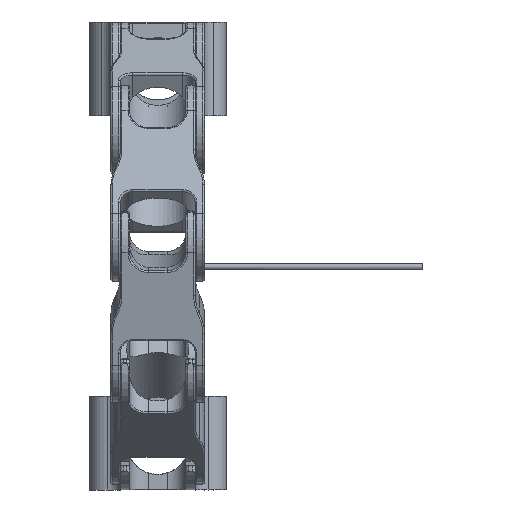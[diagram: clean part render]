
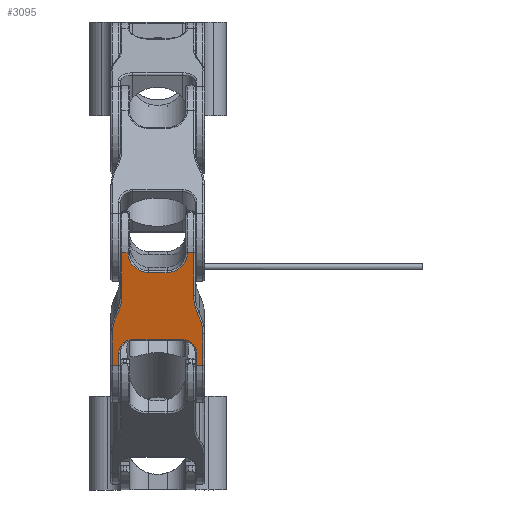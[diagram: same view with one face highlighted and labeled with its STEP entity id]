
A CAD part, front view. The second image highlights one B-rep face of the part: STEP entity #3095.
In plain terms, the highlighted planar face has unit normal (0, -0.978, -0.21) as drawn and (0, 1, 0) by its records, which use the part's own axes.
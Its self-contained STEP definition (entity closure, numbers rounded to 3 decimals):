
#2544=CARTESIAN_POINT('',(145.596,190.713,1.25));
#2545=VERTEX_POINT('',#2544);
#2588=CARTESIAN_POINT('',(143.596,190.713,1.25));
#2589=VERTEX_POINT('',#2588);
#2606=CARTESIAN_POINT('',(145.596,190.713,1.25));
#2607=DIRECTION('',(-1.0,0.0,0.0));
#2608=VECTOR('',#2607,2.);
#2609=LINE('',#2606,#2608);
#2610=EDGE_CURVE('',#2545,#2589,#2609,.T.);
#2652=CARTESIAN_POINT('',(141.346,190.713,3.5));
#2653=VERTEX_POINT('',#2652);
#2671=CARTESIAN_POINT('',(143.596,190.713,3.5));
#2672=DIRECTION('',(0.0,1.,0.0));
#2673=DIRECTION('',(-0.707,0.0,-0.707));
#2674=AXIS2_PLACEMENT_3D('',#2671,#2672,#2673);
#2675=CIRCLE('',#2674,2.25);
#2676=EDGE_CURVE('',#2589,#2653,#2675,.T.);
#2720=CARTESIAN_POINT('',(141.346,190.713,11.5));
#2721=VERTEX_POINT('',#2720);
#2738=CARTESIAN_POINT('',(141.346,190.713,3.5));
#2739=DIRECTION('',(0.0,0.0,1.0));
#2740=VECTOR('',#2739,8.);
#2741=LINE('',#2738,#2740);
#2742=EDGE_CURVE('',#2653,#2721,#2741,.T.);
#2784=CARTESIAN_POINT('',(143.596,190.713,13.75));
#2785=VERTEX_POINT('',#2784);
#2803=CARTESIAN_POINT('',(143.596,190.713,11.5));
#2804=DIRECTION('',(0.0,1.,0.0));
#2805=DIRECTION('',(-0.707,0.0,0.707));
#2806=AXIS2_PLACEMENT_3D('',#2803,#2804,#2805);
#2807=CIRCLE('',#2806,2.25);
#2808=EDGE_CURVE('',#2721,#2785,#2807,.T.);
#2852=CARTESIAN_POINT('',(145.596,190.713,13.75));
#2853=VERTEX_POINT('',#2852);
#2870=CARTESIAN_POINT('',(143.596,190.713,13.75));
#2871=DIRECTION('',(1.0,0.0,0.0));
#2872=VECTOR('',#2871,2.);
#2873=LINE('',#2870,#2872);
#2874=EDGE_CURVE('',#2785,#2853,#2873,.T.);
#2935=CARTESIAN_POINT('',(127.096,190.713,0.0));
#2936=DIRECTION('',(0.0,1.0,0.0));
#2937=DIRECTION('',(0.0,0.0,1.0));
#2938=AXIS2_PLACEMENT_3D('',#2935,#2936,#2937);
#2939=PLANE('',#2938);
#2940=ORIENTED_EDGE('',*,*,#2874,.F.);
#2941=ORIENTED_EDGE('',*,*,#2808,.F.);
#2942=ORIENTED_EDGE('',*,*,#2742,.F.);
#2943=ORIENTED_EDGE('',*,*,#2676,.F.);
#2944=ORIENTED_EDGE('',*,*,#2610,.F.);
#2945=CARTESIAN_POINT('',(145.596,190.713,0.25));
#2946=VERTEX_POINT('',#2945);
#2947=CARTESIAN_POINT('',(145.596,190.713,0.25));
#2948=DIRECTION('',(0.0,0.0,1.0));
#2949=VECTOR('',#2948,1.);
#2950=LINE('',#2947,#2949);
#2951=EDGE_CURVE('',#2946,#2545,#2950,.T.);
#2952=ORIENTED_EDGE('',*,*,#2951,.F.);
#2953=CARTESIAN_POINT('',(140.42,190.713,0.25));
#2954=VERTEX_POINT('',#2953);
#2955=CARTESIAN_POINT('',(140.42,190.713,0.25));
#2956=DIRECTION('',(1.0,0.0,0.0));
#2957=VECTOR('',#2956,5.176);
#2958=LINE('',#2955,#2957);
#2959=EDGE_CURVE('',#2954,#2946,#2958,.T.);
#2960=ORIENTED_EDGE('',*,*,#2959,.F.);
#2961=CARTESIAN_POINT('',(137.38,190.713,0.973));
#2962=VERTEX_POINT('',#2961);
#2963=CARTESIAN_POINT('',(140.42,190.713,7.));
#2964=DIRECTION('',(0.0,-1.,0.0));
#2965=DIRECTION('',(-0.231,0.0,-0.973));
#2966=AXIS2_PLACEMENT_3D('',#2963,#2964,#2965);
#2967=CIRCLE('',#2966,6.75);
#2968=EDGE_CURVE('',#2962,#2954,#2967,.T.);
#2969=ORIENTED_EDGE('',*,*,#2968,.F.);
#2970=CARTESIAN_POINT('',(134.115,190.713,1.75));
#2971=VERTEX_POINT('',#2970);
#2972=CARTESIAN_POINT('',(134.115,190.713,-5.5));
#2973=DIRECTION('',(0.0,1.0,0.0));
#2974=DIRECTION('',(0.231,0.0,0.973));
#2975=AXIS2_PLACEMENT_3D('',#2972,#2973,#2974);
#2976=CIRCLE('',#2975,7.25);
#2977=EDGE_CURVE('',#2971,#2962,#2976,.T.);
#2978=ORIENTED_EDGE('',*,*,#2977,.F.);
#2979=CARTESIAN_POINT('',(127.096,190.713,1.75));
#2980=VERTEX_POINT('',#2979);
#2981=CARTESIAN_POINT('',(127.096,190.713,1.75));
#2982=DIRECTION('',(1.0,0.0,0.0));
#2983=VECTOR('',#2982,7.02);
#2984=LINE('',#2981,#2983);
#2985=EDGE_CURVE('',#2980,#2971,#2984,.T.);
#2986=ORIENTED_EDGE('',*,*,#2985,.F.);
#2987=CARTESIAN_POINT('',(127.096,190.713,2.75));
#2988=VERTEX_POINT('',#2987);
#2989=CARTESIAN_POINT('',(127.096,190.713,1.75));
#2990=DIRECTION('',(0.0,0.0,1.0));
#2991=VECTOR('',#2990,1.);
#2992=LINE('',#2989,#2991);
#2993=EDGE_CURVE('',#2980,#2988,#2992,.T.);
#2994=ORIENTED_EDGE('',*,*,#2993,.T.);
#2995=CARTESIAN_POINT('',(127.115,190.713,2.75));
#2996=VERTEX_POINT('',#2995);
#2997=CARTESIAN_POINT('',(127.115,190.713,2.75));
#2998=DIRECTION('',(-1.0,0.0,0.));
#2999=VECTOR('',#2998,0.02);
#3000=LINE('',#2997,#2999);
#3001=EDGE_CURVE('',#2996,#2988,#3000,.T.);
#3002=ORIENTED_EDGE('',*,*,#3001,.F.);
#3003=CARTESIAN_POINT('',(130.365,190.713,6.));
#3004=VERTEX_POINT('',#3003);
#3005=CARTESIAN_POINT('',(127.115,190.713,6.));
#3006=DIRECTION('',(0.0,1.,0.0));
#3007=DIRECTION('',(0.707,0.0,-0.707));
#3008=AXIS2_PLACEMENT_3D('',#3005,#3006,#3007);
#3009=CIRCLE('',#3008,3.25);
#3010=EDGE_CURVE('',#3004,#2996,#3009,.T.);
#3011=ORIENTED_EDGE('',*,*,#3010,.F.);
#3012=CARTESIAN_POINT('',(130.365,190.713,9.));
#3013=VERTEX_POINT('',#3012);
#3014=CARTESIAN_POINT('',(130.365,190.713,9.));
#3015=DIRECTION('',(0.0,0.0,-1.0));
#3016=VECTOR('',#3015,3.);
#3017=LINE('',#3014,#3016);
#3018=EDGE_CURVE('',#3013,#3004,#3017,.T.);
#3019=ORIENTED_EDGE('',*,*,#3018,.F.);
#3020=CARTESIAN_POINT('',(127.115,190.713,12.25));
#3021=VERTEX_POINT('',#3020);
#3022=CARTESIAN_POINT('',(127.115,190.713,9.));
#3023=DIRECTION('',(0.0,1.0,0.0));
#3024=DIRECTION('',(0.707,0.0,0.707));
#3025=AXIS2_PLACEMENT_3D('',#3022,#3023,#3024);
#3026=CIRCLE('',#3025,3.25);
#3027=EDGE_CURVE('',#3021,#3013,#3026,.T.);
#3028=ORIENTED_EDGE('',*,*,#3027,.F.);
#3029=CARTESIAN_POINT('',(127.096,190.713,12.25));
#3030=VERTEX_POINT('',#3029);
#3031=CARTESIAN_POINT('',(127.096,190.713,12.25));
#3032=DIRECTION('',(1.0,0.0,0.0));
#3033=VECTOR('',#3032,0.02);
#3034=LINE('',#3031,#3033);
#3035=EDGE_CURVE('',#3030,#3021,#3034,.T.);
#3036=ORIENTED_EDGE('',*,*,#3035,.F.);
#3037=CARTESIAN_POINT('',(127.096,190.713,13.25));
#3038=VERTEX_POINT('',#3037);
#3039=CARTESIAN_POINT('',(127.096,190.713,12.25));
#3040=DIRECTION('',(0.0,0.0,1.0));
#3041=VECTOR('',#3040,1.);
#3042=LINE('',#3039,#3041);
#3043=EDGE_CURVE('',#3030,#3038,#3042,.T.);
#3044=ORIENTED_EDGE('',*,*,#3043,.T.);
#3045=CARTESIAN_POINT('',(130.115,190.713,13.25));
#3046=VERTEX_POINT('',#3045);
#3047=CARTESIAN_POINT('',(130.115,190.713,13.25));
#3048=DIRECTION('',(-1.0,0.0,0.0));
#3049=VECTOR('',#3048,3.02);
#3050=LINE('',#3047,#3049);
#3051=EDGE_CURVE('',#3046,#3038,#3050,.T.);
#3052=ORIENTED_EDGE('',*,*,#3051,.F.);
#3053=CARTESIAN_POINT('',(134.115,190.713,13.25));
#3054=VERTEX_POINT('',#3053);
#3055=CARTESIAN_POINT('',(134.115,190.713,13.25));
#3056=DIRECTION('',(-1.,0.0,0.));
#3057=VECTOR('',#3056,4.);
#3058=LINE('',#3055,#3057);
#3059=EDGE_CURVE('',#3054,#3046,#3058,.T.);
#3060=ORIENTED_EDGE('',*,*,#3059,.F.);
#3061=CARTESIAN_POINT('',(137.38,190.713,14.027));
#3062=VERTEX_POINT('',#3061);
#3063=CARTESIAN_POINT('',(134.115,190.713,20.5));
#3064=DIRECTION('',(0.0,1.,0.0));
#3065=DIRECTION('',(0.231,0.0,-0.973));
#3066=AXIS2_PLACEMENT_3D('',#3063,#3064,#3065);
#3067=CIRCLE('',#3066,7.25);
#3068=EDGE_CURVE('',#3062,#3054,#3067,.T.);
#3069=ORIENTED_EDGE('',*,*,#3068,.F.);
#3070=CARTESIAN_POINT('',(140.42,190.713,14.75));
#3071=VERTEX_POINT('',#3070);
#3072=CARTESIAN_POINT('',(140.42,190.713,8.));
#3073=DIRECTION('',(0.0,-1.,0.0));
#3074=DIRECTION('',(-0.231,0.0,0.973));
#3075=AXIS2_PLACEMENT_3D('',#3072,#3073,#3074);
#3076=CIRCLE('',#3075,6.75);
#3077=EDGE_CURVE('',#3071,#3062,#3076,.T.);
#3078=ORIENTED_EDGE('',*,*,#3077,.F.);
#3079=CARTESIAN_POINT('',(145.596,190.713,14.75));
#3080=VERTEX_POINT('',#3079);
#3081=CARTESIAN_POINT('',(145.596,190.713,14.75));
#3082=DIRECTION('',(-1.0,0.0,0.0));
#3083=VECTOR('',#3082,5.176);
#3084=LINE('',#3081,#3083);
#3085=EDGE_CURVE('',#3080,#3071,#3084,.T.);
#3086=ORIENTED_EDGE('',*,*,#3085,.F.);
#3087=CARTESIAN_POINT('',(145.596,190.713,13.75));
#3088=DIRECTION('',(0.0,0.0,1.0));
#3089=VECTOR('',#3088,1.);
#3090=LINE('',#3087,#3089);
#3091=EDGE_CURVE('',#2853,#3080,#3090,.T.);
#3092=ORIENTED_EDGE('',*,*,#3091,.F.);
#3093=EDGE_LOOP('',(#2940,#2941,#2942,#2943,#2944,#2952,#2960,#2969,#2978,#2986,#2994,#3002,#3011,#3019,#3028,#3036,#3044,#3052,#3060,#3069,#3078,#3086,#3092));
#3094=FACE_OUTER_BOUND('',#3093,.T.);
#3095=ADVANCED_FACE('',(#3094),#2939,.T.);
